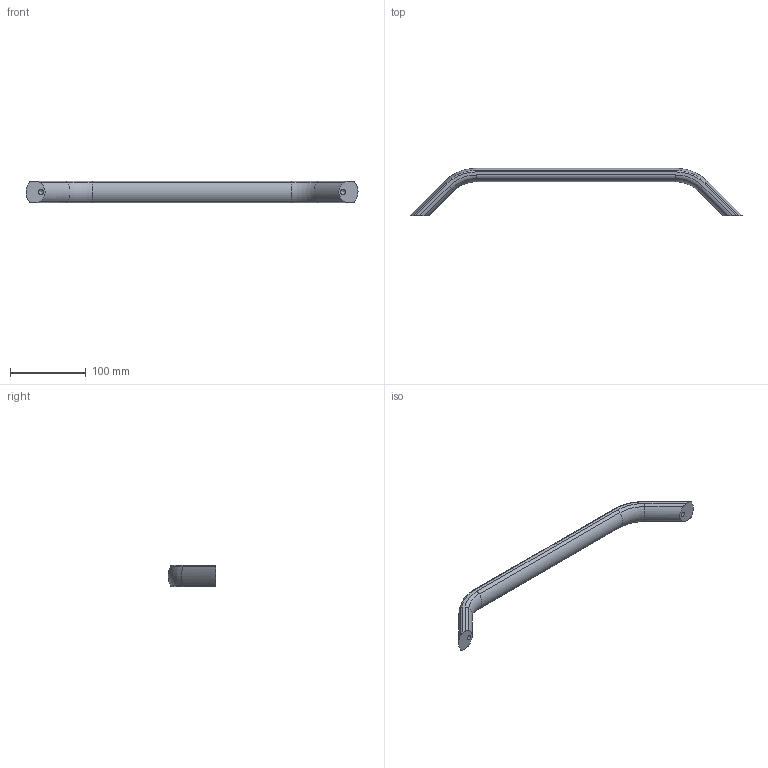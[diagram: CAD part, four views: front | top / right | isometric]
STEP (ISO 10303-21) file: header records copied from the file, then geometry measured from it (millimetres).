
FILE_DESCRIPTION( ( 'STEP AP203' ), '1' );
FILE_NAME( 'C:/Temp/Ganter_Step_05_03_2020/data/1_2/gn_428/gn_428_a/Cabinet U-handle GN 428-AL-28-400-A-SR.stp', '2020-03-05T10:11:29', ( 'License CC BY-ND 4.0' ), ( 'CADENAS' ), ' ', 'PARTsolutions', ' ' );
FILE_SCHEMA( ( 'CONFIG_CONTROL_DESIGN' ) );
Length unit declared in the file: millimetre
Products named in the file (1): _Cabinet U-handle GN 428-AL-28-400-A-SR
Bounding box: 439.43 x 63 x 28 mm (x, y, z)
Volume: 186624 mm3; surface area: 36232.2 mm2
Topology: 1 solids, 1 shells, 38 faces, 90 edges, 54 vertices
Faces by surface type: cylinder 20, torus 12, plane 4, cone 2
Full cylindrical faces by diameter (mm): 6.647 x2
Entity records: 1120 total; most frequent: DIRECTION 218, CARTESIAN_POINT 177, ORIENTED_EDGE 168, AXIS2_PLACEMENT_3D 95, EDGE_CURVE 84, VERTEX_POINT 54, CIRCLE 44, EDGE_LOOP 42
